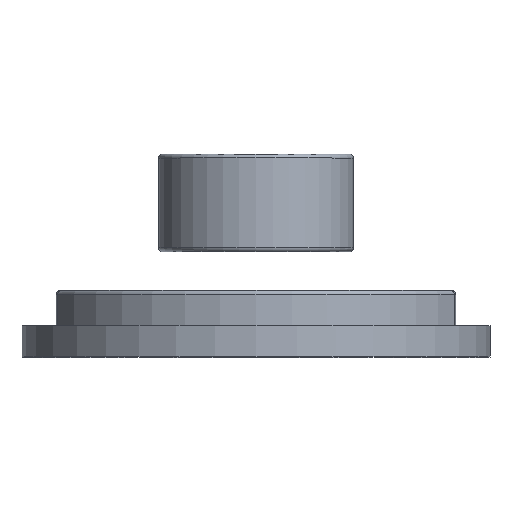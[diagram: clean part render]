
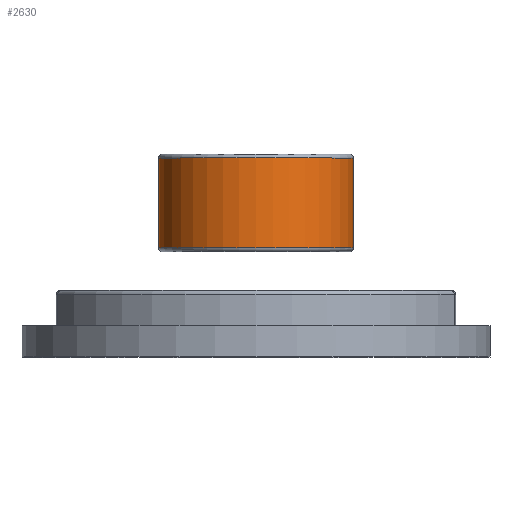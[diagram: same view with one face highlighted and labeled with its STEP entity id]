
A CAD part, top view. The second image highlights one B-rep face of the part: STEP entity #2630.
In plain terms, the highlighted cylindrical face has radius 2.5 mm (diameter 5 mm), a full revolution.
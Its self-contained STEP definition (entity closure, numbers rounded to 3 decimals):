
#87=CYLINDRICAL_SURFACE('',#2859,2.5);
#194=CIRCLE('',#2860,2.5);
#195=CIRCLE('',#2861,2.5);
#706=ORIENTED_EDGE('',*,*,#968,.T.);
#707=ORIENTED_EDGE('',*,*,#969,.T.);
#968=EDGE_CURVE('',#1142,#1142,#194,.T.);
#969=EDGE_CURVE('',#1143,#1143,#195,.F.);
#1142=VERTEX_POINT('',#3999);
#1143=VERTEX_POINT('',#4001);
#1572=EDGE_LOOP('',(#706));
#1573=EDGE_LOOP('',(#707));
#1710=FACE_BOUND('',#1572,.T.);
#1711=FACE_BOUND('',#1573,.T.);
#2630=ADVANCED_FACE('',(#1710,#1711),#87,.T.);
#2859=AXIS2_PLACEMENT_3D('',#3997,#3445,#3446);
#2860=AXIS2_PLACEMENT_3D('',#3998,#3447,#3448);
#2861=AXIS2_PLACEMENT_3D('',#4000,#3449,#3450);
#3445=DIRECTION('',(0.,1.,0.));
#3446=DIRECTION('',(0.,0.,1.));
#3447=DIRECTION('',(0.,1.,0.));
#3448=DIRECTION('',(0.,0.,1.));
#3449=DIRECTION('',(0.,1.,0.));
#3450=DIRECTION('',(0.,0.,1.));
#3997=CARTESIAN_POINT('',(0.,-1.25,0.));
#3998=CARTESIAN_POINT('',(0.,-1.15,0.));
#3999=CARTESIAN_POINT('',(0.,-1.15,2.5));
#4000=CARTESIAN_POINT('',(0.,1.15,0.));
#4001=CARTESIAN_POINT('',(0.,1.15,2.5));
